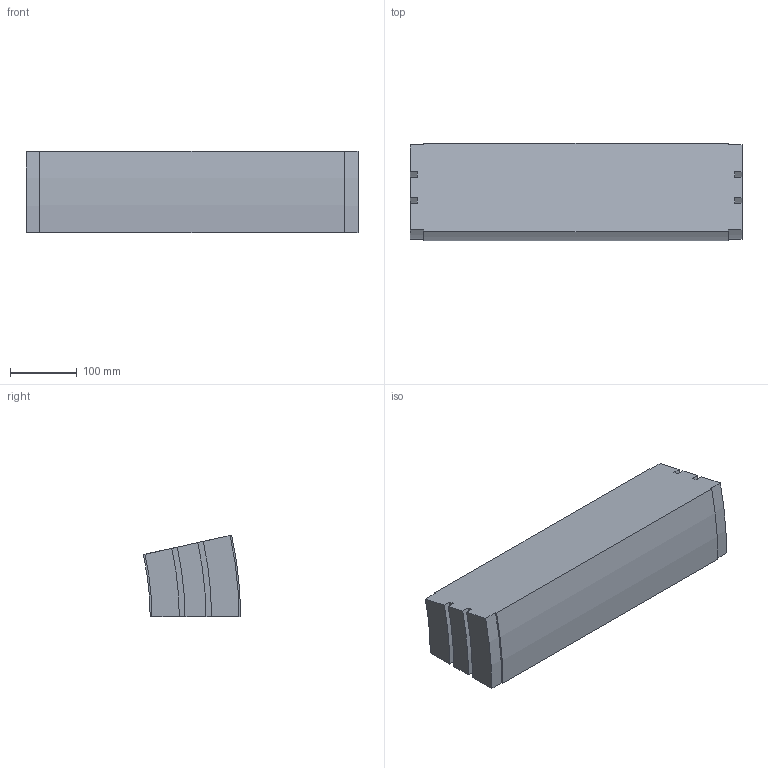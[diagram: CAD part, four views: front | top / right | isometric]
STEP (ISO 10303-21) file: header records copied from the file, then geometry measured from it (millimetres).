
FILE_DESCRIPTION (( 'STEP AP214' ), '1' );
FILE_NAME ('02.150V12.500.N FS-500-MTC-150 Bocht verticaal 12,5°.STEP', '2013-03-29T13:05:46', ( 'Gebruiker' ), ( '' ), 'SwSTEP 2.0', 'SolidWorks 2012', '' );
FILE_SCHEMA (( 'AUTOMOTIVE_DESIGN' ));
Length unit declared in the file: millimetre
Products named in the file (1): 02.150V12.500.N FS-500-MTC-150 Bocht verticaal 12,5°
Bounding box: 499 x 146.24 x 122.94 mm (x, y, z)
Volume: 7339109.5 mm3; surface area: 282694.8 mm2
Topology: 1 solids, 1 shells, 30 faces, 84 edges, 56 vertices
Faces by surface type: plane 16, cylinder 14
Entity records: 1010 total; most frequent: DIRECTION 174, CARTESIAN_POINT 171, ORIENTED_EDGE 168, EDGE_CURVE 84, AXIS2_PLACEMENT_3D 59, VERTEX_POINT 56, LINE 56, VECTOR 56
